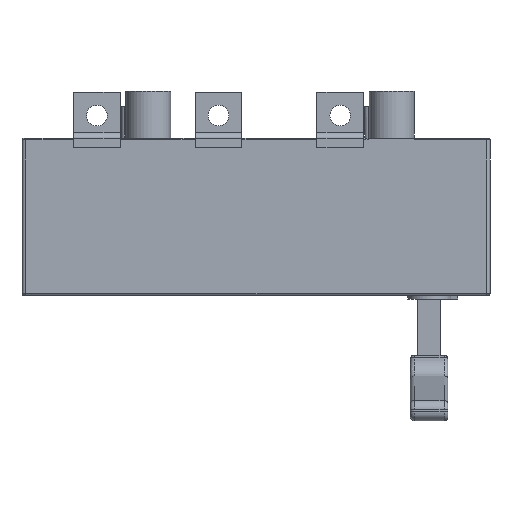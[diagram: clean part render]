
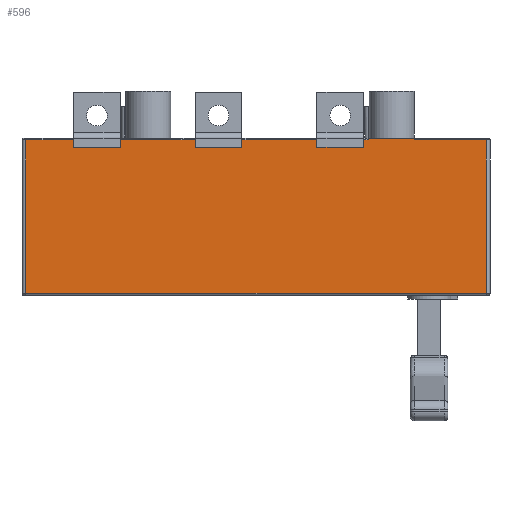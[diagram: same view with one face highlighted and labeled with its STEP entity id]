
A CAD part, front view. The second image highlights one B-rep face of the part: STEP entity #596.
In plain terms, the highlighted planar face has unit normal (0, -1, 0).
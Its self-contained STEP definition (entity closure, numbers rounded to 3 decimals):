
#353=FACE_OUTER_BOUND('',#1853,.T.);
#596=ADVANCED_FACE('',(#353),#706,.T.);
#706=PLANE('',#4782);
#707=LINE('',#6116,#1049);
#714=LINE('',#6134,#1056);
#716=LINE('',#6140,#1058);
#734=LINE('',#6198,#1076);
#741=LINE('',#6216,#1083);
#743=LINE('',#6225,#1085);
#761=LINE('',#6280,#1103);
#768=LINE('',#6298,#1110);
#770=LINE('',#6307,#1112);
#931=LINE('',#6956,#1273);
#940=LINE('',#7047,#1282);
#945=LINE('',#7064,#1287);
#946=LINE('',#7066,#1288);
#968=LINE('',#7190,#1310);
#975=LINE('',#7239,#1317);
#1007=LINE('',#7339,#1349);
#1013=LINE('',#7351,#1355);
#1023=LINE('',#7371,#1365);
#1042=LINE('',#7412,#1384);
#1044=LINE('',#7416,#1386);
#1047=LINE('',#7422,#1389);
#1048=LINE('',#7424,#1390);
#1049=VECTOR('',#4789,1.);
#1056=VECTOR('',#4804,1.);
#1058=VECTOR('',#4810,1.);
#1076=VECTOR('',#4866,1.);
#1083=VECTOR('',#4881,1.);
#1085=VECTOR('',#4889,1.);
#1103=VECTOR('',#4943,1.);
#1110=VECTOR('',#4958,1.);
#1112=VECTOR('',#4966,1.);
#1273=VECTOR('',#5645,1.);
#1282=VECTOR('',#5710,1.);
#1287=VECTOR('',#5733,1.);
#1288=VECTOR('',#5736,1.);
#1310=VECTOR('',#5874,1.);
#1317=VECTOR('',#5895,1.);
#1349=VECTOR('',#5995,1.);
#1355=VECTOR('',#6007,1.);
#1365=VECTOR('',#6029,1.);
#1384=VECTOR('',#6084,1.);
#1386=VECTOR('',#6090,1.);
#1389=VECTOR('',#6099,1.);
#1390=VECTOR('',#6102,1.);
#1853=EDGE_LOOP('',(#3024,#3025,#3026,#3027,#3028,#3029,#3030,#3031,#3032,
#3033,#3034,#3035,#3036,#3037,#3038,#3039,#3040,#3041,#3042,#3043,#3044,
#3045));
#3024=ORIENTED_EDGE('',*,*,#3449,.T.);
#3025=ORIENTED_EDGE('',*,*,#3460,.T.);
#3026=ORIENTED_EDGE('',*,*,#4043,.T.);
#3027=ORIENTED_EDGE('',*,*,#3496,.F.);
#3028=ORIENTED_EDGE('',*,*,#3488,.F.);
#3029=ORIENTED_EDGE('',*,*,#3500,.F.);
#3030=ORIENTED_EDGE('',*,*,#4039,.T.);
#3031=ORIENTED_EDGE('',*,*,#3535,.F.);
#3032=ORIENTED_EDGE('',*,*,#3527,.F.);
#3033=ORIENTED_EDGE('',*,*,#3539,.F.);
#3034=ORIENTED_EDGE('',*,*,#4037,.T.);
#3035=ORIENTED_EDGE('',*,*,#3879,.F.);
#3036=ORIENTED_EDGE('',*,*,#3869,.T.);
#3037=ORIENTED_EDGE('',*,*,#3878,.T.);
#3038=ORIENTED_EDGE('',*,*,#3839,.T.);
#3039=ORIENTED_EDGE('',*,*,#4003,.T.);
#3040=ORIENTED_EDGE('',*,*,#3996,.F.);
#3041=ORIENTED_EDGE('',*,*,#3932,.F.);
#3042=ORIENTED_EDGE('',*,*,#4014,.T.);
#3043=ORIENTED_EDGE('',*,*,#3945,.T.);
#3044=ORIENTED_EDGE('',*,*,#4042,.T.);
#3045=ORIENTED_EDGE('',*,*,#3457,.T.);
#3051=VERTEX_POINT('',#6117);
#3052=VERTEX_POINT('',#6118);
#3058=VERTEX_POINT('',#6135);
#3060=VERTEX_POINT('',#6141);
#3081=VERTEX_POINT('',#6199);
#3082=VERTEX_POINT('',#6200);
#3088=VERTEX_POINT('',#6217);
#3091=VERTEX_POINT('',#6224);
#3111=VERTEX_POINT('',#6281);
#3112=VERTEX_POINT('',#6282);
#3118=VERTEX_POINT('',#6299);
#3121=VERTEX_POINT('',#6306);
#3320=VERTEX_POINT('',#6934);
#3321=VERTEX_POINT('',#6954);
#3329=VERTEX_POINT('',#6975);
#3339=VERTEX_POINT('',#7002);
#3343=VERTEX_POINT('',#7044);
#3391=VERTEX_POINT('',#7189);
#3392=VERTEX_POINT('',#7191);
#3399=VERTEX_POINT('',#7221);
#3402=VERTEX_POINT('',#7238);
#3437=VERTEX_POINT('',#7340);
#3449=EDGE_CURVE('',#3051,#3052,#707,.T.);
#3457=EDGE_CURVE('',#3058,#3051,#714,.T.);
#3460=EDGE_CURVE('',#3052,#3060,#716,.T.);
#3488=EDGE_CURVE('',#3081,#3082,#734,.T.);
#3496=EDGE_CURVE('',#3082,#3088,#741,.T.);
#3500=EDGE_CURVE('',#3091,#3081,#743,.T.);
#3527=EDGE_CURVE('',#3111,#3112,#761,.T.);
#3535=EDGE_CURVE('',#3112,#3118,#768,.T.);
#3539=EDGE_CURVE('',#3121,#3111,#770,.T.);
#3839=EDGE_CURVE('',#3320,#3321,#931,.T.);
#3869=EDGE_CURVE('',#3343,#3339,#940,.T.);
#3878=EDGE_CURVE('',#3339,#3320,#945,.T.);
#3879=EDGE_CURVE('',#3343,#3329,#946,.T.);
#3932=EDGE_CURVE('',#3391,#3392,#968,.T.);
#3945=EDGE_CURVE('',#3399,#3402,#975,.T.);
#3996=EDGE_CURVE('',#3392,#3437,#1007,.T.);
#4003=EDGE_CURVE('',#3321,#3437,#1013,.T.);
#4014=EDGE_CURVE('',#3391,#3399,#1023,.T.);
#4037=EDGE_CURVE('',#3121,#3329,#1042,.T.);
#4039=EDGE_CURVE('',#3091,#3118,#1044,.T.);
#4042=EDGE_CURVE('',#3402,#3058,#1047,.T.);
#4043=EDGE_CURVE('',#3060,#3088,#1048,.T.);
#4782=AXIS2_PLACEMENT_3D('',#7427,#6107,#6108);
#4789=DIRECTION('',(-1.,0.,0.));
#4804=DIRECTION('',(0.,0.,-1.));
#4810=DIRECTION('',(0.,0.,1.));
#4866=DIRECTION('',(1.,0.,0.));
#4881=DIRECTION('',(0.,0.,1.));
#4889=DIRECTION('',(0.,0.,-1.));
#4943=DIRECTION('',(1.,0.,0.));
#4958=DIRECTION('',(0.,0.,1.));
#4966=DIRECTION('',(0.,0.,-1.));
#5645=DIRECTION('',(-1.,0.,0.));
#5710=DIRECTION('',(1.,0.,0.));
#5733=DIRECTION('',(0.,0.,1.));
#5736=DIRECTION('',(0.,0.,1.));
#5874=DIRECTION('',(0.,0.,-1.));
#5895=DIRECTION('',(0.,0.,-1.));
#5995=DIRECTION('',(1.,0.,0.));
#6007=DIRECTION('',(0.,0.,1.));
#6029=DIRECTION('',(-1.,0.,0.));
#6084=DIRECTION('',(-1.,0.,0.));
#6090=DIRECTION('',(-1.,0.,0.));
#6099=DIRECTION('',(-1.,0.,0.));
#6102=DIRECTION('',(-1.,0.,0.));
#6107=DIRECTION('',(0.,-1.,0.));
#6108=DIRECTION('',(1.,0.,0.));
#6116=CARTESIAN_POINT('',(-12.,-52.5,-5.));
#6117=CARTESIAN_POINT('',(-15.,-52.5,-5.));
#6118=CARTESIAN_POINT('',(-40.,-52.5,-5.));
#6134=CARTESIAN_POINT('',(-15.,-52.5,4.));
#6135=CARTESIAN_POINT('',(-15.,-52.5,-1.));
#6140=CARTESIAN_POINT('',(-40.,-52.5,4.));
#6141=CARTESIAN_POINT('',(-40.,-52.5,-1.));
#6198=CARTESIAN_POINT('',(-12.,-52.5,-5.));
#6199=CARTESIAN_POINT('',(-105.,-52.5,-5.));
#6200=CARTESIAN_POINT('',(-80.,-52.5,-5.));
#6216=CARTESIAN_POINT('',(-80.,-52.5,4.));
#6217=CARTESIAN_POINT('',(-80.,-52.5,-1.));
#6224=CARTESIAN_POINT('',(-105.,-52.5,-1.));
#6225=CARTESIAN_POINT('',(-105.,-52.5,4.));
#6280=CARTESIAN_POINT('',(-12.,-52.5,-5.));
#6281=CARTESIAN_POINT('',(-170.,-52.5,-5.));
#6282=CARTESIAN_POINT('',(-145.,-52.5,-5.));
#6298=CARTESIAN_POINT('',(-145.,-52.5,4.));
#6299=CARTESIAN_POINT('',(-145.,-52.5,-1.));
#6306=CARTESIAN_POINT('',(-170.,-52.5,-1.));
#6307=CARTESIAN_POINT('',(-170.,-52.5,4.));
#6934=CARTESIAN_POINT('',(50.5,-52.5,-1.));
#6954=CARTESIAN_POINT('',(12.,-52.5,-1.));
#6956=CARTESIAN_POINT('',(12.,-52.5,-1.));
#6975=CARTESIAN_POINT('',(-195.5,-52.5,-1.));
#7002=CARTESIAN_POINT('',(50.5,-52.5,-83.));
#7044=CARTESIAN_POINT('',(-195.5,-52.5,-83.));
#7047=CARTESIAN_POINT('',(-12.,-52.5,-83.));
#7064=CARTESIAN_POINT('',(50.5,-52.5,-84.));
#7066=CARTESIAN_POINT('',(-195.5,-52.5,-84.));
#7189=CARTESIAN_POINT('',(-12.,-52.5,17.));
#7190=CARTESIAN_POINT('',(-12.,-52.5,25.));
#7191=CARTESIAN_POINT('',(-12.,-52.5,0.));
#7221=CARTESIAN_POINT('',(-12.5,-52.5,17.));
#7238=CARTESIAN_POINT('',(-12.5,-52.5,-1.));
#7239=CARTESIAN_POINT('',(-12.5,-52.5,4.));
#7339=CARTESIAN_POINT('',(50.5,-52.5,0.));
#7340=CARTESIAN_POINT('',(12.,-52.5,0.));
#7351=CARTESIAN_POINT('',(12.,-52.5,4.));
#7371=CARTESIAN_POINT('',(7.5,-52.5,17.));
#7412=CARTESIAN_POINT('',(-195.5,-52.5,-1.));
#7416=CARTESIAN_POINT('',(-195.5,-52.5,-1.));
#7422=CARTESIAN_POINT('',(-195.5,-52.5,-1.));
#7424=CARTESIAN_POINT('',(-195.5,-52.5,-1.));
#7427=CARTESIAN_POINT('',(-12.,-52.5,4.));
